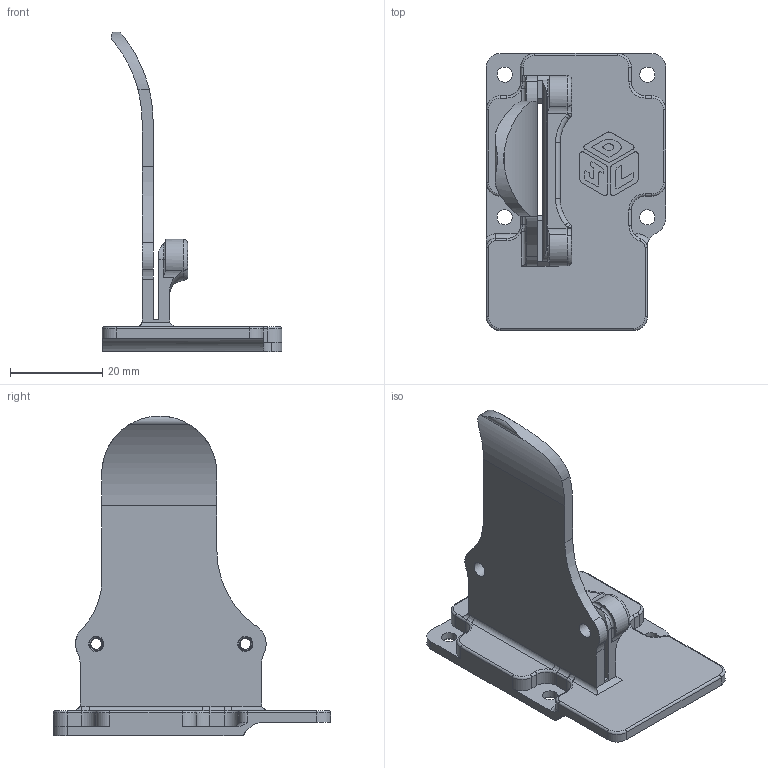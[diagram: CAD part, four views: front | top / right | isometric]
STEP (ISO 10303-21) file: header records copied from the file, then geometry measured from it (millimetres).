
FILE_DESCRIPTION(('CATIA V5 STEP Exchange'),'2;1');
FILE_NAME('E:\Dropbox\3D Printer Fan Duct Designs\1.) Artillery Sidewinder X1\3D Models\5015 Double Ducts\VOLCANO\BONUS_CLIP_DOUBLE FAN\COMMON PARTS ALL EXTRUDERS\BRACKET X ASSY_Insert.stp','2022-01-09T21:41:03+00:00',('none'),('none'),'CATIA Version 5 Release 20 SP 1 (IN-10)','CATIA V5 STEP AP214','none');
FILE_SCHEMA(('AUTOMOTIVE_DESIGN { 1 0 10303 214 1 1 1 1 }'));
Length unit declared in the file: millimetre
Products named in the file (1): FISSACAVO_ASSE_X
Bounding box: 39 x 60.2 x 69.5 mm (x, y, z)
Volume: 15713.9 mm3; surface area: 11860.5 mm2
Topology: 3 solids, 3 shells, 1226 faces, 3273 edges, 2061 vertices
Faces by surface type: bspline 713, cylinder 310, plane 124, torus 36, cone 26, extrusion 11, sphere 6
Entity records: 38019 total; most frequent: CARTESIAN_POINT 15964, ORIENTED_EDGE 6534, EDGE_CURVE 3267, DIRECTION 2128, VERTEX_POINT 2061, EDGE_LOOP 1262, ADVANCED_FACE 1226, FACE_OUTER_BOUND 1226
